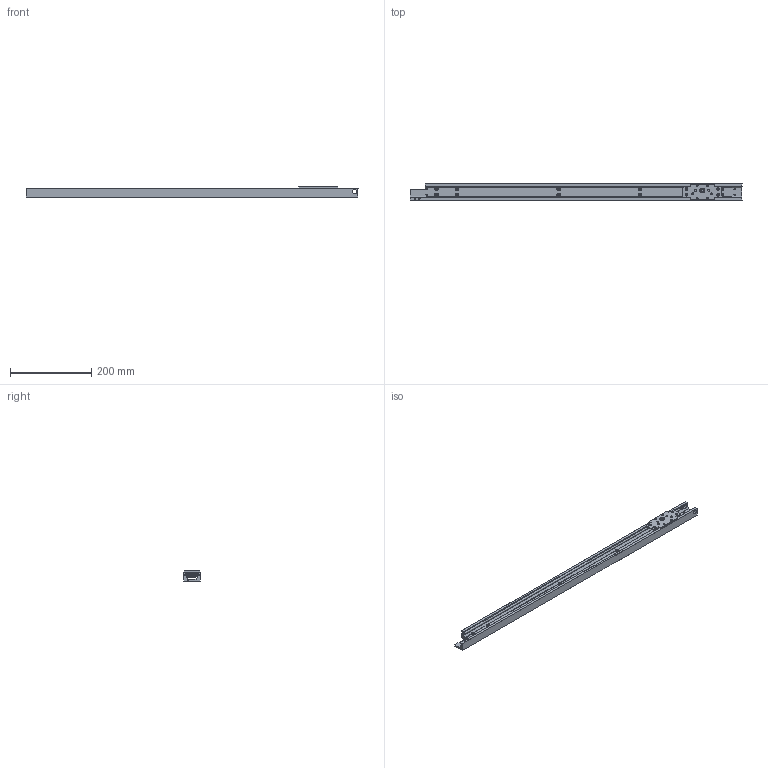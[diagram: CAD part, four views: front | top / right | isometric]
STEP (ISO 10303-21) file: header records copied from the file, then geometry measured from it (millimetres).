
FILE_DESCRIPTION((''),'1');
FILE_NAME('H:/図庫/国内ﾕﾆｯﾄ/ﾌﾙﾗｲﾄﾞ/ホームページ用ＣＡＤ図面/最新/3D/40SW0815S_HP.stp','2016-11-30T07:51:30',(''),(''),'Spatial Interop R21 SP3','Kubotek KeyCreator 2011 V10.0.2 (22737)',' ');
FILE_SCHEMA(('automotive_design'));
Length unit declared in the file: millimetre
Products named in the file (169): Unnamed[1]
Bounding box: 815 x 40 x 25.03 mm (x, y, z)
Surface area: 171911.8 mm2 (no closed solid volume)
Topology: 0 solids, 334 shells, 334 faces, 1535 edges, 1422 vertices
Faces by surface type: cylinder 154, plane 118, cone 37, bspline 19, torus 6
Full cylindrical faces by diameter (mm): 3 x3, 3.1 x4, 3.3 x2, 3.5 x4, 4 x4, 4.2 x10, 5 x5, 6 x4, 6.03 x2, 7 x3, 7.8 x3, 9 x10, 10 x3, 11 x4, 13 x1, 17 x4, 19.9 x2
Entity records: 26359 total; most frequent: CARTESIAN_POINT 6322, DIRECTION 2654, ORIENTED_EDGE 1404, EDGE_CURVE 1404, VERTEX_POINT 1404, AXIS2_PLACEMENT_3D 1128, PRESENTATION_STYLE_ASSIGNMENT 1006, COLOUR_RGB 1006
